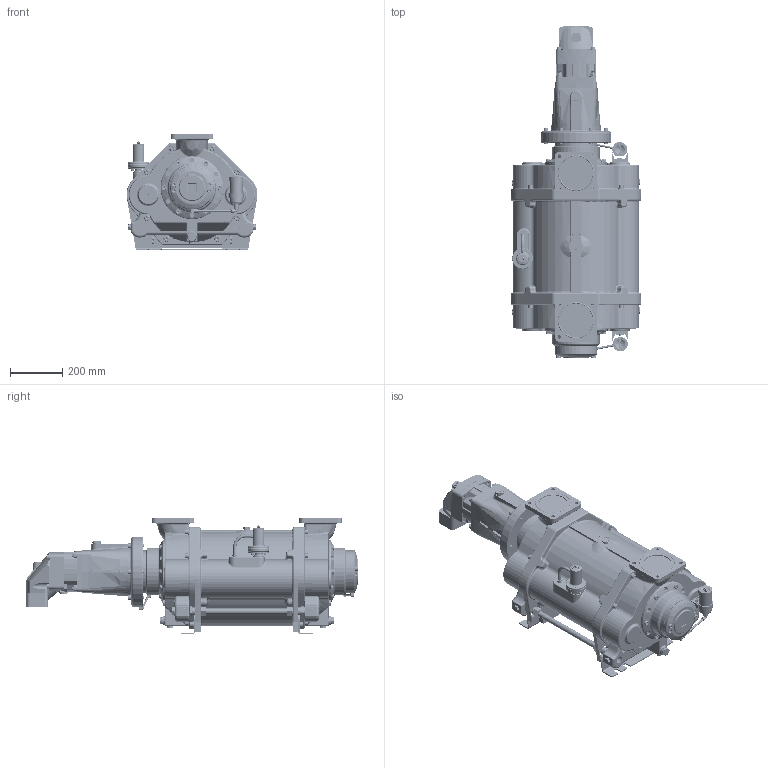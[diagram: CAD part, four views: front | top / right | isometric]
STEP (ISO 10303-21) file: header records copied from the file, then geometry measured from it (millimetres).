
FILE_DESCRIPTION(/* description */ (''),/* implementation_level */ '2;1');
FILE_NAME(/* name */ '1700151B.stp',/* time_stamp */ '2025-09-24T10:32:52+02:00',/* author */ ('JJ'),/* organization */ (''),/* preprocessor_version */ 'ST-DEVELOPER v20',/* originating_system */ 'Autodesk Inventor 2025',/* authorisation */ '');
FILE_SCHEMA (('AUTOMOTIVE_DESIGN { 1 0 10303 214 3 1 1 }'));
Length unit declared in the file: millimetre
Products named in the file (53): 1634868; 1700036 Ready for adaptor; 922000267; 1634666; 1634667; 1634668; 1634130; 1634131; 1634670; 1634134; 910200105; 910100125; 910300428; 921000047; 922100045; 922100339; 1634669; 925000651; 910300012; 925000862; 927000134-TM2500; 915000217; 922200269; 915000021; 910300074; 915000050; 1654102; 1615072; 910300486; 910300509; 915000232; 910300487; 915000225; 915000225-part1; 915000225-part2; 910100191; 944600240; 944600173; 944600239; Slange 3 automatsmøring TM1700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
Assembly tree (87 placements, depth 3):
  1634868
    1700036 Ready for adaptor
    922000267
    1634666
      1634667
      1634668
      1634130
      1634131
      1634670
      1634134
      910200105
      910100125
      910300428
      921000047
      922100045
      922100339
      1634669
      925000651
      910300012  x4
    925000862
    927000134-TM2500
    915000232  x2
    910300487  x2
    910100191  x2
    915000225  x2
      915000225-part1
      915000225-part2
    915000217
    944600240  x2
    944600173  x2
    944600239  x2
    922200269
    910300074  x2
    915000050  x2
    915000021
    1654102
    1615072
    910300486  x6
    910300509  x4
    Slange 3 automatsmøring TM1700
    910100013  x10
    944000088
      944000088_part1
      944000088_part2
      944000088_part3
    910100198  x4
    910200013  x4
    1634826
      1634811
      922000266
    932400151
    932400153
    932400157
Bounding box: 502.48 x 1274.11 x 447.09 mm (x, y, z)
Volume: 94755591.1 mm3; surface area: 3041780.1 mm2
Topology: 86 solids, 87 shells, 5195 faces, 13009 edges, 8323 vertices
Faces by surface type: plane 2081, cylinder 1444, bspline 893, cone 397, torus 313, sphere 67
Full cylindrical faces by diameter (mm): 1.5 x16, 3.2 x2, 3.3 x4, 3.5 x4, 4 x4, 4.134 x4, 4.917 x1, 4.92 x5, 5 x2, 5.3 x2, 6 x22, 6.1 x1, 6.4 x1, 6.5 x4, 6.647 x1, 8 x27, 8.4 x1, 8.5 x4, 8.57 x1, 8.92 x2, 9.2 x2, 9.7 x1, 9.8 x4, 10 x13, 10.106 x29, 10.11 x1, 11 x4, 11.445 x2, 12 x131, 13 x28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
Entity records: 185195 total; most frequent: CARTESIAN_POINT 80347, ORIENTED_EDGE 21864, DIRECTION 19553, EDGE_CURVE 10932, AXIS2_PLACEMENT_3D 7399, VERTEX_POINT 7012, EDGE_LOOP 4990, LINE 4755
